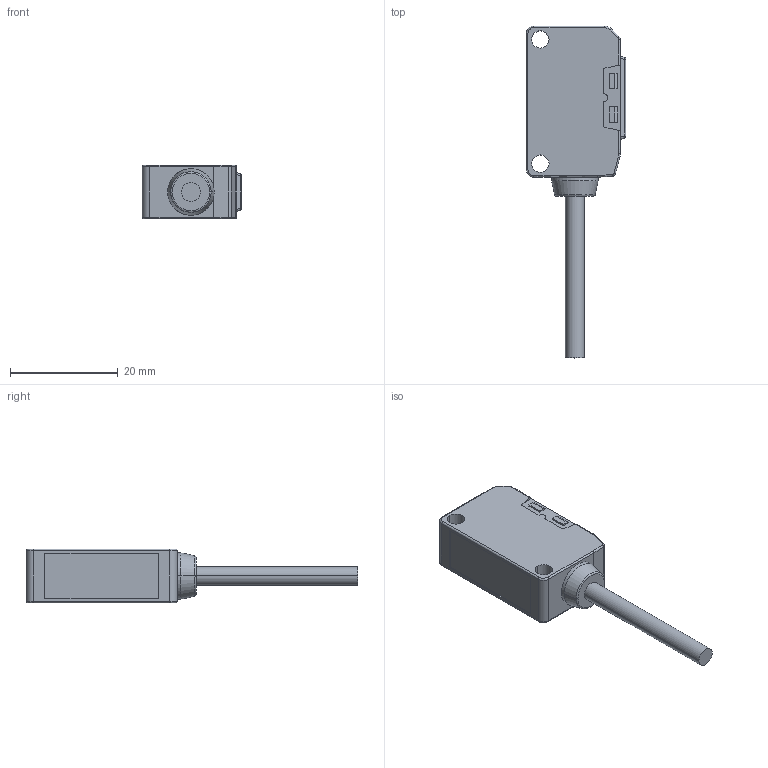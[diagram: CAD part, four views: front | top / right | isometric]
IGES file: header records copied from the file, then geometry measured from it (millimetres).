
Start section: Elysium IGES Interface
Global section: file name: 69HH:\Documents and Settings\y-shirakawa\デスクトップ\S_Sender_cable.igs; native system: CoCreate Modeling 16.50A  01-Dec-2009; preprocessor: CoCreate IGES_3D V2.2; author: Unknown; organization: Unknown; date: 20101202.112501; units: millimetre
Bounding box: 18.4 x 61.5 x 10 mm (x, y, z)
Volume: 5155.8 mm3; surface area: 2445.4 mm2
Topology: 1 solids, 1 shells, 125 faces, 301 edges, 186 vertices
Faces by surface type: bspline 125
